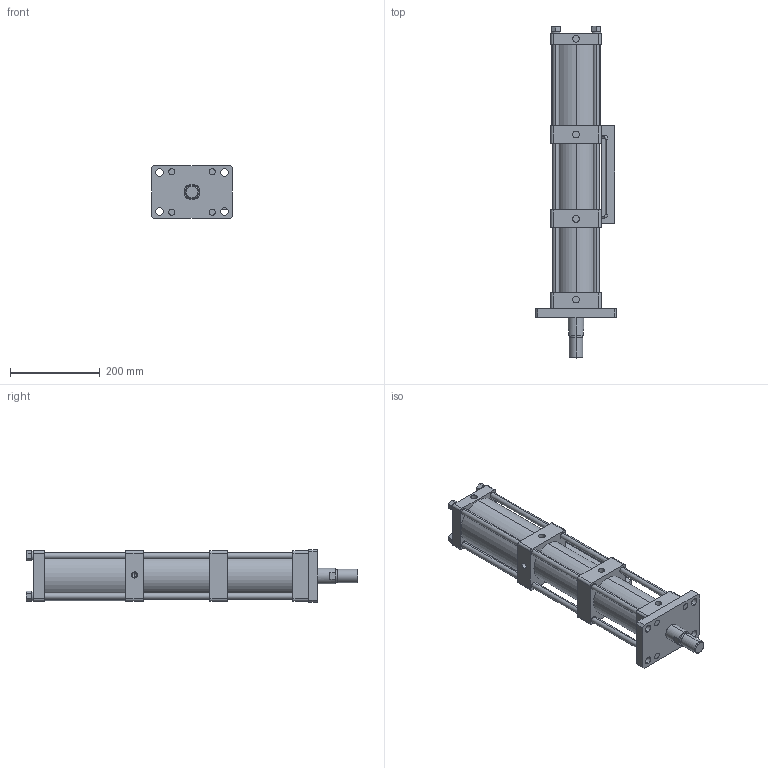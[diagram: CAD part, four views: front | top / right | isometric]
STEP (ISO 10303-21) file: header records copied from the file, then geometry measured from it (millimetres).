
FILE_DESCRIPTION (( 'STEP AP203' ), '1' );
FILE_NAME ('MPTF-80-100-10-5T.STEP', '2016-03-29T10:09:53', ( 'WIN' ), ( '' ), 'SwSTEP 2.0', 'SolidWorks 2014', '' );
FILE_SCHEMA (( 'CONFIG_CONTROL_DESIGN' ));
Length unit declared in the file: millimetre
Products named in the file (1): MPTF-80-100-10-5T
Bounding box: 180 x 740 x 118 mm (x, y, z)
Volume: 3344185.2 mm3; surface area: 637453.5 mm2
Topology: 5 solids, 5 shells, 266 faces, 632 edges, 413 vertices
Faces by surface type: cylinder 136, plane 120, cone 6, torus 4
Entity records: 7973 total; most frequent: DIRECTION 1448, CARTESIAN_POINT 1382, ORIENTED_EDGE 1260, EDGE_CURVE 630, AXIS2_PLACEMENT_3D 555, VERTEX_POINT 413, EDGE_LOOP 349, LINE 338
